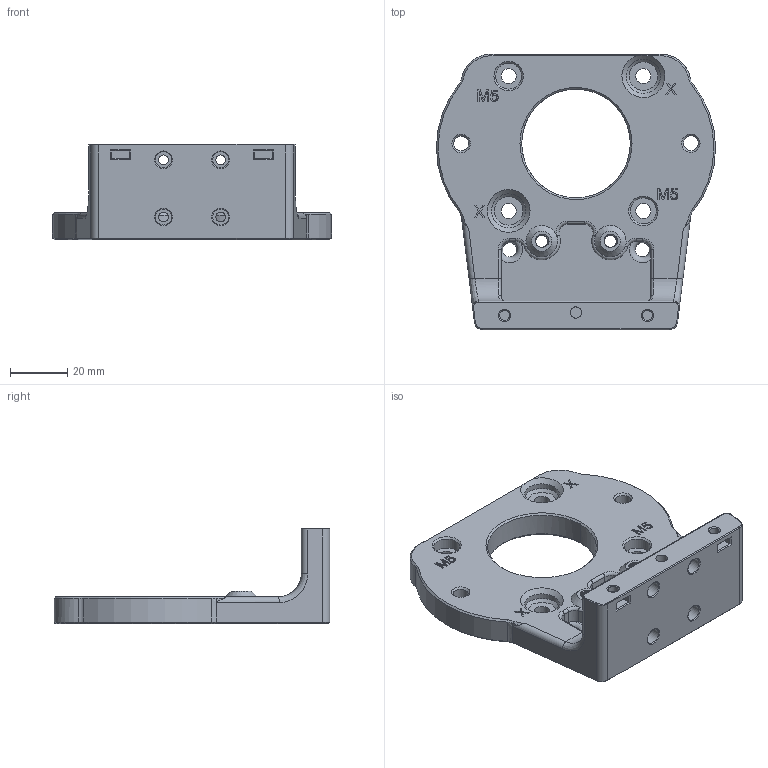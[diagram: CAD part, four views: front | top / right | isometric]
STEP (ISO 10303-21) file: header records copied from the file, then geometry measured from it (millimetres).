
FILE_DESCRIPTION(/* description */ (''),/* implementation_level */ '2;1');
FILE_NAME(/* name */ 'OSSM - Body - Bottom.step',/* time_stamp */ '2023-02-08T08:31:27-08:00',/* author */ (''),/* organization */ (''),/* preprocessor_version */ 'ST-DEVELOPER v19.2',/* originating_system */ 'Autodesk Translation Framework v11.17.0.187',/* authorisation */ '');
FILE_SCHEMA (('AUTOMOTIVE_DESIGN { 1 0 10303 214 3 1 1 }'));
Length unit declared in the file: millimetre
Products named in the file (1): OSSM Base
Bounding box: 97.67 x 96.48 x 33.5 mm (x, y, z)
Volume: 72934.2 mm3; surface area: 25033.7 mm2
Topology: 1 solids, 1 shells, 367 faces, 961 edges, 609 vertices
Faces by surface type: plane 129, cylinder 114, bspline 78, cone 26, torus 20
Full cylindrical faces by diameter (mm): 3.4 x4, 3.5 x2, 4 x1, 4.234 x16, 5.12 x8, 5.2 x2, 5.3 x4, 5.6 x4, 9.1 x2, 12 x2
Entity records: 16275 total; most frequent: CARTESIAN_POINT 7821, ORIENTED_EDGE 1918, DIRECTION 1436, EDGE_CURVE 959, VERTEX_POINT 609, LINE 492, VECTOR 492, AXIS2_PLACEMENT_3D 472
